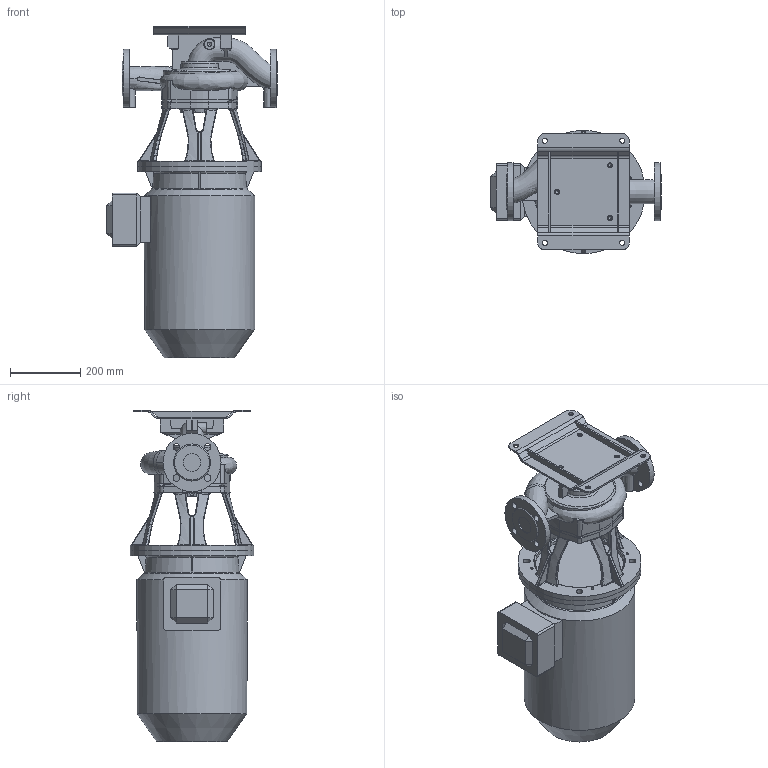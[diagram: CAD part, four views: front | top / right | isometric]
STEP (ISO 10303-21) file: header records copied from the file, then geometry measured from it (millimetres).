
FILE_DESCRIPTION (( 'STEP AP203' ), '1' );
FILE_NAME ('KI50-180_2_11kW.STEP', '2024-03-06T12:16:53', ( '' ), ( '' ), 'SwSTEP 2.0', 'SolidWorks 2023', '' );
FILE_SCHEMA (( 'CONFIG_CONTROL_DESIGN' ));
Length unit declared in the file: millimetre
Products named in the file (11): 230031; 230483; 220426; 230484; KI50-180_2_11kW; O-184,5x3N; 440186_solid; 230034; 230033; 230413; 220427
Assembly tree (11 placements, depth 3):
  KI50-180_2_11kW
    230484
      230483
    220427
      220426
    230034
      230031
      230033  x2
    O-184,5x3N
    440186_solid
    230413
Bounding box: 483 x 350 x 940.95 mm (x, y, z)
Volume: 50994474.6 mm3; surface area: 1774618.1 mm2
Topology: 8 solids, 8 shells, 1013 faces, 2538 edges, 1522 vertices
Faces by surface type: bspline 305, plane 284, cylinder 250, torus 83, cone 69, sphere 22
Full cylindrical faces by diameter (mm): 5 x4, 6 x3, 6.8 x4, 7 x4, 10.2 x7, 11.8 x4, 14 x4, 14.5 x7, 19 x16, 50 x2, 150 x1, 165 x2, 186 x1, 189 x1, 250 x1, 313 x1, 350 x2
Entity records: 56141 total; most frequent: CARTESIAN_POINT 33969, ORIENTED_EDGE 4734, DIRECTION 3821, EDGE_CURVE 2367, AXIS2_PLACEMENT_3D 1556, VERTEX_POINT 1469, EDGE_LOOP 1180, FACE_OUTER_BOUND 1068
